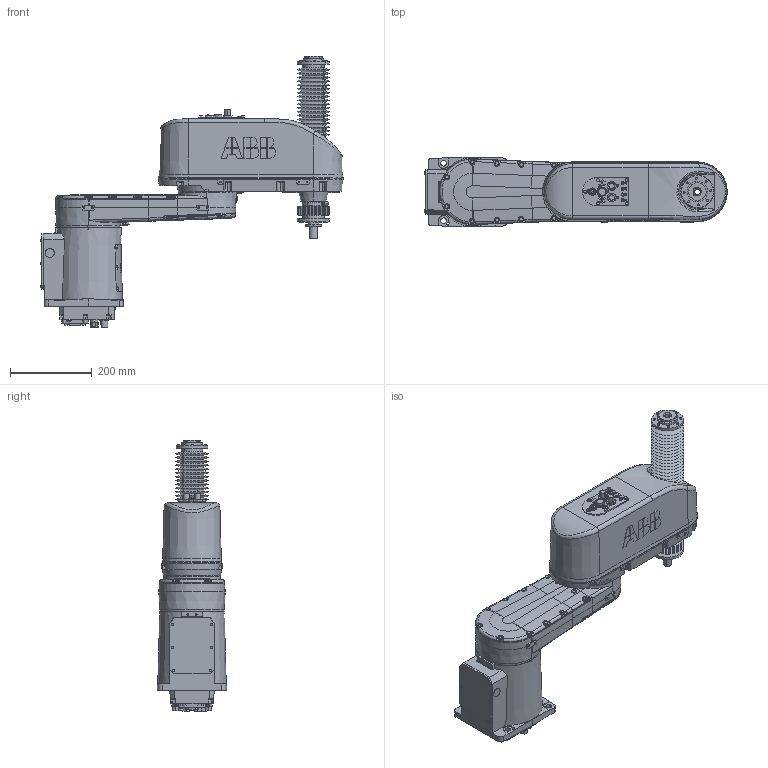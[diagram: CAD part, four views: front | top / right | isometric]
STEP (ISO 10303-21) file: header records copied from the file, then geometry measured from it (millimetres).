
FILE_DESCRIPTION (( 'STEP AP214' ), '1' );
FILE_NAME ('IRB920T_6kg-550-145-IP54-BTM_OmniCore_rev00_Assembly.step', '2021-10-28T02:19:56', ( '' ), ( '' ), 'SwSTEP 2.0', 'SolidWorks 2018', '' );
FILE_SCHEMA (( 'AUTOMOTIVE_DESIGN' ));
Length unit declared in the file: millimetre
Products named in the file (5): IRB920T_6kg-550-145-IP54-BTM_OmniCore_rev00_LINK0_CAD; IRB920T_6kg-550-145-IP54CR-BTM_OmniCore_rev00_LINK2_CAD; IRB920T_6kg-550-145-IP54CR-BTM_OmniCore_rev00_LINK1_CAD; IRB920T_6kg-550-145-IP54-BTM_OmniCore_rev00_Assembly; IRB920T_6kg-550-145-IP54CR-BTM_OmniCore_rev00_LINK3_CAD
Assembly tree (4 placements, depth 2):
  IRB920T_6kg-550-145-IP54-BTM_OmniCore_rev00_Assembly
    IRB920T_6kg-550-145-IP54-BTM_OmniCore_rev00_LINK0_CAD
    IRB920T_6kg-550-145-IP54CR-BTM_OmniCore_rev00_LINK1_CAD
    IRB920T_6kg-550-145-IP54CR-BTM_OmniCore_rev00_LINK2_CAD
    IRB920T_6kg-550-145-IP54CR-BTM_OmniCore_rev00_LINK3_CAD
Bounding box: 739 x 170 x 663.63 mm (x, y, z)
Volume: 19917149.7 mm3; surface area: 1030115.2 mm2
Topology: 4 solids, 4 shells, 2524 faces, 6359 edges, 4086 vertices
Faces by surface type: plane 1272, cylinder 466, bspline 392, cone 378, torus 14, sphere 2
Entity records: 105416 total; most frequent: CARTESIAN_POINT 38125, ORIENTED_EDGE 12572, DIRECTION 10360, EDGE_CURVE 6286, VERTEX_POINT 4086, VECTOR 3660, LINE 3660, AXIS2_PLACEMENT_3D 3350
